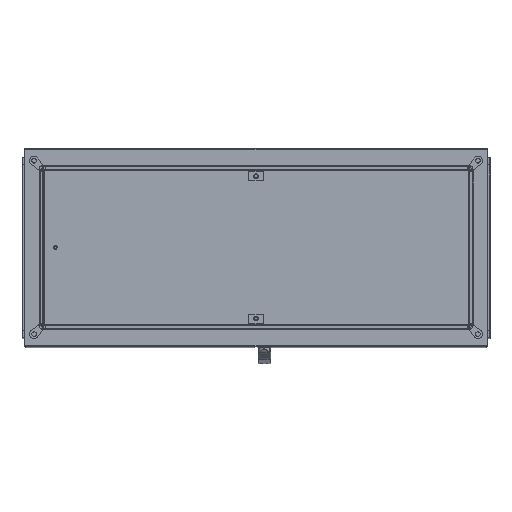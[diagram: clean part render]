
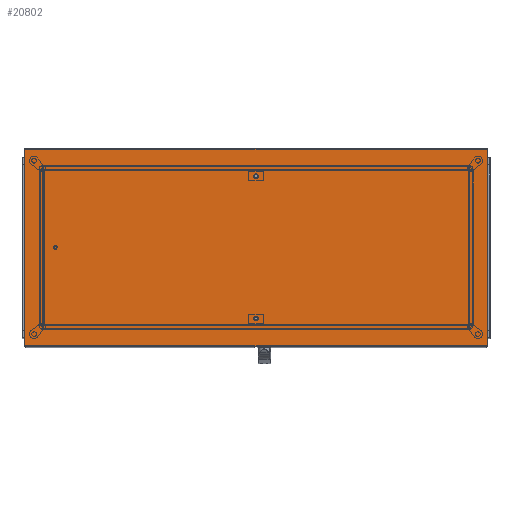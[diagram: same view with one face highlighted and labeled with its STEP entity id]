
A CAD part, top view. The second image highlights one B-rep face of the part: STEP entity #20802.
In plain terms, the highlighted planar face has unit normal (0, 0, 1) as drawn and (0, -1, 0) by its records, which use the part's own axes.
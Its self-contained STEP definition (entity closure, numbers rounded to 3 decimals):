
#1344=CIRCLE('',#22707,6.318);
#1345=CIRCLE('',#22708,6.318);
#5956=ORIENTED_EDGE('',*,*,#9840,.F.);
#5957=ORIENTED_EDGE('',*,*,#9853,.F.);
#5958=ORIENTED_EDGE('',*,*,#9799,.F.);
#5959=ORIENTED_EDGE('',*,*,#9846,.F.);
#5960=ORIENTED_EDGE('',*,*,#9860,.F.);
#5961=ORIENTED_EDGE('',*,*,#9861,.F.);
#9799=EDGE_CURVE('',#12081,#12082,#14099,.T.);
#9840=EDGE_CURVE('',#12116,#12117,#14129,.T.);
#9846=EDGE_CURVE('',#12117,#12081,#14134,.T.);
#9853=EDGE_CURVE('',#12082,#12116,#14141,.T.);
#9860=EDGE_CURVE('',#12130,#12130,#1344,.T.);
#9861=EDGE_CURVE('',#12131,#12131,#1345,.T.);
#12081=VERTEX_POINT('',#34271);
#12082=VERTEX_POINT('',#34273);
#12116=VERTEX_POINT('',#34351);
#12117=VERTEX_POINT('',#34353);
#12130=VERTEX_POINT('',#34389);
#12131=VERTEX_POINT('',#34391);
#14099=LINE('',#34272,#16140);
#14129=LINE('',#34352,#16170);
#14134=LINE('',#34364,#16175);
#14141=LINE('',#34376,#16182);
#16140=VECTOR('',#27613,1000.);
#16170=VECTOR('',#27673,1000.);
#16175=VECTOR('',#27682,1000.);
#16182=VECTOR('',#27691,1000.);
#17629=EDGE_LOOP('',(#5956,#5957,#5958,#5959));
#17630=EDGE_LOOP('',(#5960));
#17631=EDGE_LOOP('',(#5961));
#18916=FACE_BOUND('',#17629,.T.);
#18917=FACE_BOUND('',#17630,.T.);
#18918=FACE_BOUND('',#17631,.T.);
#19776=PLANE('',#22706);
#20802=ADVANCED_FACE('',(#18916,#18917,#18918),#19776,.F.);
#22706=AXIS2_PLACEMENT_3D('',#34387,#27698,#27699);
#22707=AXIS2_PLACEMENT_3D('',#34388,#27700,#27701);
#22708=AXIS2_PLACEMENT_3D('',#34390,#27702,#27703);
#27613=DIRECTION('',(1.,0.,0.));
#27673=DIRECTION('',(-1.,0.,0.));
#27682=DIRECTION('',(0.,0.,1.));
#27691=DIRECTION('',(0.,0.,-1.));
#27698=DIRECTION('',(0.,1.,0.));
#27699=DIRECTION('',(0.,0.,1.));
#27700=DIRECTION('',(0.,-1.,0.));
#27701=DIRECTION('',(0.,0.,-1.));
#27702=DIRECTION('',(0.,-1.,0.));
#27703=DIRECTION('',(0.,0.,-1.));
#34271=CARTESIAN_POINT('',(-599.5,0.,255.5));
#34272=CARTESIAN_POINT('',(-599.5,0.,255.5));
#34273=CARTESIAN_POINT('',(599.5,0.,255.5));
#34351=CARTESIAN_POINT('',(599.5,0.,-255.5));
#34352=CARTESIAN_POINT('',(599.5,0.,-255.5));
#34353=CARTESIAN_POINT('',(-599.5,0.,-255.5));
#34364=CARTESIAN_POINT('',(-599.5,0.,-255.5));
#34376=CARTESIAN_POINT('',(599.5,0.,255.5));
#34387=CARTESIAN_POINT('',(0.,0.,0.));
#34388=CARTESIAN_POINT('',(0.,0.,184.));
#34389=CARTESIAN_POINT('',(0.,0.,177.682));
#34390=CARTESIAN_POINT('',(0.,0.,-184.));
#34391=CARTESIAN_POINT('',(0.,0.,-190.318));
